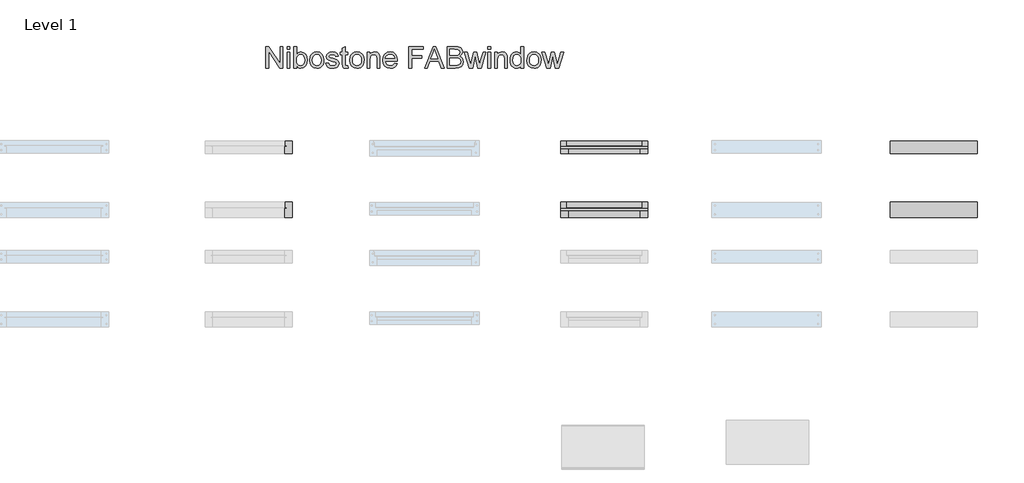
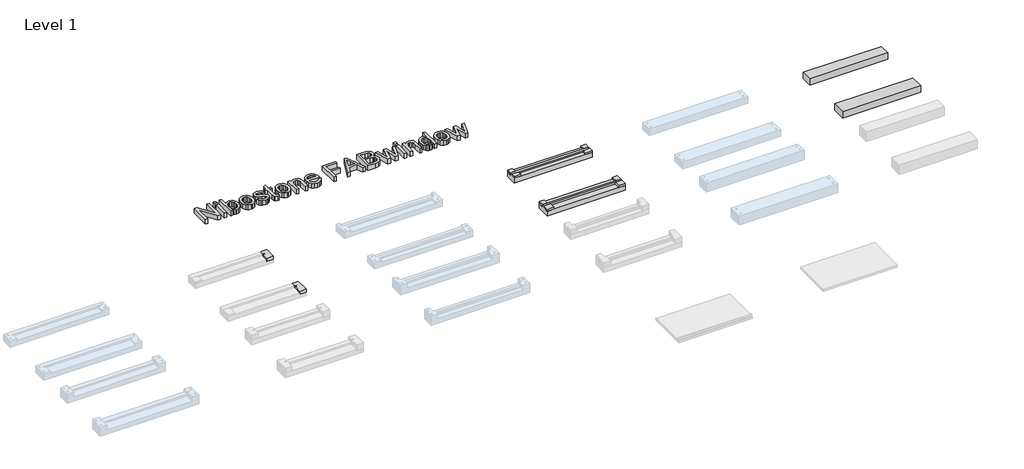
# One storey, part 4 of 4: 11 proxies.
"""IFC4 building model written with IfcOpenShell, lengths in millimetres."""

from ifc_helpers import new_model, si_unit, frame, origin, origin_with_axes, place, context, project, spatial, polyline, outline, extrude, faceted_brep, element, save

model = new_model("IFC4")

# Units and contexts
model_context = context("Model", 3, world=origin())
ifc_project = project(units=[si_unit("LENGTHUNIT", "METRE", prefix="MILLI")], contexts=[model_context])

# Site, building, storey
site = spatial("IfcSite", under=ifc_project)
building = spatial("IfcBuilding", under=site)
storey = spatial("IfcBuildingStorey", under=building, Name="Level 1", Elevation=0.0)

# Proxies
placement = place(None, origin())
element("IfcBuildingElementProxy", 1, Name="200 mm", ObjectType="200 mm", at=placement, inside=storey, context=model_context, shape_type="SweptSolid", body=[
    extrude(outline(polyline([(13803.9519218, 17664.2498472), (13803.9519218, 17861.1729242), (13830.2980756, 17861.1729242), (13933.182691, 17705.1633088), (13933.182691, 17861.1729242), (13957.7980756, 17861.1729242), (13957.7980756, 17664.2498472), (13931.4519218, 17664.2498472), (13828.5673064, 17820.3075395), (13828.5673064, 17664.2498472), (13803.9519218, 17664.2498472)])), origin_with_axes(), (0.0, 0.0, 1.0), 50.0),
    extrude(outline(polyline([(13997.7980756, 17664.2498472), (13997.7980756, 17808.8652319), (14022.4134603, 17808.8652319), (14022.4134603, 17664.2498472), (13997.7980756, 17664.2498472)])), origin_with_axes(), (0.0, 0.0, 1.0), 50.0),
    extrude(outline(polyline([(13997.7980756, 17836.5575395), (13997.7980756, 17861.1729242), (14022.4134603, 17861.1729242), (14022.4134603, 17836.5575395), (13997.7980756, 17836.5575395)])), origin_with_axes(), (0.0, 0.0, 1.0), 50.0),
    extrude(outline(polyline([(14083.9519218, 17664.2498472), (14059.3365372, 17664.2498472), (14059.3365372, 17861.1729242), (14083.9519218, 17861.1729242), (14083.9519218, 17788.144078), (14101.1874987, 17805.9926357), (14122.605768, 17811.9421549), (14147.2692295, 17806.581578), (14166.4038449, 17791.5094626), (14178.1586526, 17768.0719626), (14182.4134603, 17738.7210011), (14178.0084122, 17705.8604242), (14164.793268, 17681.4133088), (14145.4002391, 17666.2330203), (14122.4615372, 17661.1729242), (14110.8599747, 17662.8045347), (14100.574518, 17667.6993665), (14083.9519218, 17687.2786934), (14083.9519218, 17664.2498472)]), holes=[polyline([(14083.9519218, 17737.5671549), (14085.6346141, 17717.0383088), (14090.682691, 17703.144078), (14103.5793256, 17690.1272511), (14120.3461526, 17685.7883088), (14134.5528833, 17688.9854242), (14146.6923064, 17698.5767703), (14155.0216333, 17714.5022511), (14157.7980756, 17736.7017703), (14155.135816, 17759.2258088), (14147.1490372, 17774.9710011), (14135.3882199, 17784.237828), (14121.4038449, 17787.3267703), (14107.1971141, 17784.1296549), (14095.057691, 17774.5383088), (14086.7283641, 17758.9012895), (14083.9519218, 17737.5671549)])]), origin_with_axes(), (0.0, 0.0, 1.0), 50.0),
    extrude(outline(polyline([(14203.9519218, 17736.5575395), (14209.276441, 17771.425328), (14215.9320901, 17784.9740059), (14225.2499987, 17795.9325395), (14244.9855756, 17807.9397511), (14268.6153833, 17811.9421549), (14294.4747583, 17807.0683569), (14315.1298064, 17792.4469626), (14328.6694699, 17769.2318184), (14333.182691, 17738.5767703), (14331.1874987, 17713.7089819), (14325.2019218, 17694.7786934), (14315.4002391, 17680.6020107), (14301.9567295, 17669.9950395), (14285.9891814, 17663.378453), (14268.6153833, 17661.1729242), (14242.4435083, 17666.0286934), (14221.8124987, 17680.5960011), (14208.417066, 17704.2979242), (14203.9519218, 17736.5575395)]), holes=[polyline([(14228.5673064, 17736.6056165), (14231.4158641, 17714.3279722), (14239.9615372, 17698.456578), (14252.8221141, 17688.9553761), (14268.6153833, 17685.7883088), (14284.3365372, 17688.9734049), (14297.1730756, 17698.5286934), (14305.7187487, 17714.6104242), (14308.5673064, 17737.3748472), (14305.7007199, 17759.003453), (14297.1009603, 17774.6585011), (14284.246393, 17784.159703), (14268.6153833, 17787.3267703), (14252.8221141, 17784.1717222), (14239.9615372, 17774.706578), (14231.4158641, 17758.8712415), (14228.5673064, 17736.6056165)])]), origin_with_axes(), (0.0, 0.0, 1.0), 50.0),
    extrude(outline(polyline([(14351.6442295, 17707.3267703), (14376.2596141, 17710.4036934), (14380.1418256, 17699.8748472), (14387.6538449, 17692.1344626), (14398.8437487, 17687.3748472), (14413.7596141, 17685.7883088), (14428.495191, 17687.2426357), (14438.855768, 17691.6056165), (14444.9855756, 17697.9277319), (14447.0288449, 17705.2594626), (14444.9735564, 17711.5335011), (14438.807691, 17716.3171549), (14413.4711526, 17723.3363857), (14376.4038449, 17735.3796549), (14360.2259603, 17749.4421549), (14354.7211526, 17769.2979242), (14359.1442295, 17787.6392703), (14371.2115372, 17801.6536934), (14386.8605756, 17808.9373472), (14408.0384603, 17811.9421549), (14437.9903833, 17807.1104242), (14449.1923064, 17801.425328), (14457.0288449, 17794.0335011), (14465.4903833, 17771.9421549), (14440.8749987, 17768.8652319), (14437.7680276, 17776.6116261), (14431.620191, 17782.4469626), (14409.9615372, 17787.3267703), (14395.8269218, 17786.1609049), (14386.4038449, 17782.6633088), (14381.1033641, 17777.6152319), (14379.3365372, 17771.7979242), (14382.2692295, 17764.6344626), (14391.4519218, 17759.2017703), (14412.6538449, 17753.9613857), (14448.7836526, 17742.3748472), (14465.5624987, 17729.2498472), (14470.1237968, 17719.5984049), (14471.6442295, 17707.8556165), (14469.8593737, 17695.7161934), (14464.5048064, 17684.2979242), (14455.7848545, 17674.4962415), (14443.9038449, 17667.206578), (14429.5528833, 17662.6813376), (14413.4230756, 17661.1729242), (14388.6033641, 17664.081578), (14370.4903833, 17672.8075395), (14358.3990372, 17687.2546549), (14351.6442295, 17707.3267703)])), origin_with_axes(), (0.0, 0.0, 1.0), 50.0),
    extrude(outline(polyline([(14551.6442295, 17684.7786934), (14554.7211526, 17663.5286934), (14536.307691, 17661.1729242), (14515.682691, 17665.2594626), (14505.3942295, 17675.9806165), (14502.4134603, 17703.9133088), (14502.4134603, 17784.2498472), (14483.9519218, 17784.2498472), (14483.9519218, 17808.8652319), (14502.4134603, 17808.8652319), (14502.4134603, 17844.0094626), (14527.0288449, 17858.4806165), (14527.0288449, 17808.8652319), (14551.6442295, 17808.8652319), (14551.6442295, 17784.2498472), (14527.0288449, 17784.2498472), (14527.0288449, 17704.6344626), (14528.3269218, 17691.9421549), (14532.5336526, 17687.4469626), (14540.9230756, 17685.7883088), (14551.6442295, 17684.7786934)])), origin_with_axes(), (0.0, 0.0, 1.0), 50.0),
    extrude(outline(polyline([(14570.105768, 17736.5575395), (14575.4302872, 17771.425328), (14582.0859362, 17784.9740059), (14591.4038449, 17795.9325395), (14611.1394218, 17807.9397511), (14634.7692295, 17811.9421549), (14660.6286045, 17807.0683569), (14681.2836526, 17792.4469626), (14694.823316, 17769.2318184), (14699.3365372, 17738.5767703), (14697.3413449, 17713.7089819), (14691.355768, 17694.7786934), (14681.5540853, 17680.6020107), (14668.1105756, 17669.9950395), (14652.1430276, 17663.378453), (14634.7692295, 17661.1729242), (14608.5973545, 17666.0286934), (14587.9663449, 17680.5960011), (14574.5709122, 17704.2979242), (14570.105768, 17736.5575395)]), holes=[polyline([(14594.7211526, 17736.6056165), (14597.5697103, 17714.3279722), (14606.1153833, 17698.456578), (14618.9759603, 17688.9553761), (14634.7692295, 17685.7883088), (14650.4903833, 17688.9734049), (14663.3269218, 17698.5286934), (14671.8725949, 17714.6104242), (14674.7211526, 17737.3748472), (14671.854566, 17759.003453), (14663.2548064, 17774.6585011), (14650.4002391, 17784.159703), (14634.7692295, 17787.3267703), (14618.9759603, 17784.1717222), (14606.1153833, 17774.706578), (14597.5697103, 17758.8712415), (14594.7211526, 17736.6056165)])]), origin_with_axes(), (0.0, 0.0, 1.0), 50.0),
    extrude(outline(polyline([(14727.0288449, 17664.2498472), (14727.0288449, 17808.8652319), (14751.6442295, 17808.8652319), (14751.6442295, 17788.6729242), (14760.1959122, 17798.8532126), (14770.4663449, 17806.1248472), (14782.4555276, 17810.487828), (14796.1634603, 17811.9421549), (14819.4086526, 17807.2546549), (14835.2740372, 17794.9469626), (14842.6538449, 17776.8460011), (14843.9519218, 17753.0479242), (14843.9519218, 17664.2498472), (14819.3365372, 17664.2498472), (14819.3365372, 17749.7306165), (14816.4999987, 17771.5094626), (14806.4759603, 17783.0238857), (14789.5769218, 17787.3267703), (14775.1598545, 17784.9109049), (14762.870191, 17777.6633088), (14754.4507199, 17763.6609049), (14751.6442295, 17740.9806165), (14751.6442295, 17664.2498472), (14727.0288449, 17664.2498472)])), origin_with_axes(), (0.0, 0.0, 1.0), 50.0),
    extrude(outline(polyline([(14979.0480756, 17707.3267703), (15003.182691, 17704.2498472), (14994.4867776, 17686.0647511), (14980.6105756, 17672.4710011), (14961.8665853, 17663.9974434), (14938.5673064, 17661.1729242), (14909.6850949, 17666.0467222), (14887.4615372, 17680.6681165), (14873.2908641, 17704.0875876), (14868.5673064, 17735.3556165), (14873.338941, 17767.675328), (14887.6538449, 17791.8460011), (14909.5769218, 17806.9181165), (14937.1730756, 17811.9421549), (14963.9098545, 17806.9301357), (14985.2740372, 17791.894078), (14999.2824506, 17767.7714819), (15003.9519218, 17735.4998472), (15003.807691, 17728.8652319), (14893.182691, 17728.8652319), (14897.4435083, 17710.4397511), (14907.3413449, 17696.894078), (14921.6262006, 17688.5647511), (14939.0480756, 17685.7883088), (14963.182691, 17690.9325395), (14972.1490372, 17697.6032126), (14979.0480756, 17707.3267703)]), holes=[polyline([(14893.182691, 17753.4806165), (14979.3365372, 17753.4806165), (14976.0072103, 17766.4854242), (14969.480768, 17775.7883088), (14955.1298064, 17784.4421549), (14937.0769218, 17787.3267703), (14920.4843737, 17785.0250876), (14906.7644218, 17778.1200395), (14897.2271622, 17767.3568184), (14893.182691, 17753.4806165)])]), origin_with_axes(), (0.0, 0.0, 1.0), 50.0),
    extrude(outline(polyline([(15108.5673064, 17664.2498472), (15108.5673064, 17861.1729242), (15240.8749987, 17861.1729242), (15240.8749987, 17836.5575395), (15133.182691, 17836.5575395), (15133.182691, 17778.0960011), (15225.4903833, 17778.0960011), (15225.4903833, 17753.4806165), (15133.182691, 17753.4806165), (15133.182691, 17664.2498472), (15108.5673064, 17664.2498472)])), origin_with_axes(), (0.0, 0.0, 1.0), 50.0),
    extrude(outline(polyline([(15251.7884603, 17664.2498472), (15330.3942295, 17861.1729242), (15351.355768, 17861.1729242), (15429.9615372, 17664.2498472), (15403.9519218, 17664.2498472), (15381.4038449, 17725.7883088), (15300.2980756, 17725.7883088), (15277.7980756, 17664.2498472), (15251.7884603, 17664.2498472)]), holes=[polyline([(15309.3365372, 17750.4036934), (15372.4134603, 17750.4036934), (15354.6730756, 17798.8171549), (15340.8749987, 17836.5575395), (15328.6153833, 17803.0479242), (15309.3365372, 17750.4036934)])]), origin_with_axes(), (0.0, 0.0, 1.0), 50.0),
    extrude(outline(polyline([(15456.2596141, 17664.2498472), (15456.2596141, 17861.1729242), (15531.4038449, 17861.1729242), (15552.0709122, 17859.7246069), (15568.2067295, 17855.3796549), (15580.574518, 17848.0298953), (15589.9374987, 17837.5671549), (15595.8329314, 17825.2594626), (15597.7980756, 17812.3748472), (15596.1454314, 17800.5178761), (15591.1874987, 17789.3700395), (15582.8882199, 17779.6164338), (15571.2115372, 17771.9421549), (15585.1598545, 17764.6585011), (15595.4663449, 17753.5767703), (15601.8305276, 17739.4301357), (15603.9519218, 17722.9517703), (15598.1586526, 17696.4854242), (15583.807691, 17677.6392703), (15562.3894218, 17667.6392703), (15530.8269218, 17664.2498472), (15456.2596141, 17664.2498472)]), holes=[polyline([(15480.8749987, 17781.1729242), (15525.8269218, 17781.1729242), (15552.0769218, 17783.2883088), (15567.870191, 17792.3988857), (15573.182691, 17808.4325395), (15568.230768, 17824.4902319), (15554.0480756, 17833.9854242), (15522.4134603, 17836.5575395), (15480.8749987, 17836.5575395), (15480.8749987, 17781.1729242)]), polyline([(15480.8749987, 17688.8652319), (15531.355768, 17688.8652319), (15549.6249987, 17689.8267703), (15565.0817295, 17695.1873472), (15575.3221141, 17706.1248472), (15579.3365372, 17722.7113857), (15574.6249987, 17741.8460011), (15568.4531237, 17748.7630684), (15559.3605756, 17753.2642703), (15528.9519218, 17756.5575395), (15480.8749987, 17756.5575395), (15480.8749987, 17688.8652319)])]), origin_with_axes(), (0.0, 0.0, 1.0), 50.0),
    extrude(outline(polyline([(15658.7115372, 17664.2498472), (15614.7211526, 17808.8652319), (15640.2980756, 17808.8652319), (15665.2499987, 17724.4902319), (15672.7019218, 17694.3460011), (15678.807691, 17723.3844626), (15698.6634603, 17808.8652319), (15727.9903833, 17808.8652319), (15747.7499987, 17723.6248472), (15753.182691, 17697.3267703), (15760.9711526, 17725.0671549), (15785.9711526, 17808.8652319), (15811.6442295, 17808.8652319), (15767.3173064, 17664.2498472), (15737.557691, 17664.2498472), (15718.6634603, 17749.0575395), (15713.182691, 17775.4998472), (15688.807691, 17664.2498472), (15658.7115372, 17664.2498472)])), origin_with_axes(), (0.0, 0.0, 1.0), 50.0),
    extrude(outline(polyline([(15828.5673064, 17664.2498472), (15828.5673064, 17808.8652319), (15853.182691, 17808.8652319), (15853.182691, 17664.2498472), (15828.5673064, 17664.2498472)])), origin_with_axes(), (0.0, 0.0, 1.0), 50.0),
    extrude(outline(polyline([(15828.5673064, 17836.5575395), (15828.5673064, 17861.1729242), (15853.182691, 17861.1729242), (15853.182691, 17836.5575395), (15828.5673064, 17836.5575395)])), origin_with_axes(), (0.0, 0.0, 1.0), 50.0),
    extrude(outline(polyline([(15890.105768, 17664.2498472), (15890.105768, 17808.8652319), (15914.7211526, 17808.8652319), (15914.7211526, 17788.6729242), (15923.2728353, 17798.8532126), (15933.543268, 17806.1248472), (15945.5324506, 17810.487828), (15959.2403833, 17811.9421549), (15982.4855756, 17807.2546549), (15998.3509603, 17794.9469626), (16005.730768, 17776.8460011), (16007.0288449, 17753.0479242), (16007.0288449, 17664.2498472), (15982.4134603, 17664.2498472), (15982.4134603, 17749.7306165), (15979.5769218, 17771.5094626), (15969.5528833, 17783.0238857), (15952.6538449, 17787.3267703), (15938.2367776, 17784.9109049), (15925.9471141, 17777.6633088), (15917.527643, 17763.6609049), (15914.7211526, 17740.9806165), (15914.7211526, 17664.2498472), (15890.105768, 17664.2498472)])), origin_with_axes(), (0.0, 0.0, 1.0), 50.0),
    extrude(outline(polyline([(16130.105768, 17664.2498472), (16130.105768, 17687.4710011), (16122.7409843, 17675.9655924), (16113.8197103, 17667.7474434), (16103.3419458, 17662.816554), (16091.307691, 17661.1729242), (16075.3942295, 17663.5527319), (16060.8269218, 17670.6921549), (16048.495191, 17682.0923953), (16039.2884603, 17697.2546549), (16033.5552872, 17715.565953), (16031.6442295, 17736.4133088), (16033.4050468, 17757.0022511), (16038.6874987, 17775.5960011), (16047.4855756, 17791.1368665), (16059.793268, 17802.5671549), (16074.6790853, 17809.5984049), (16091.2115372, 17811.9421549), (16103.2548064, 17810.2654722), (16113.9038449, 17805.2354242), (16130.105768, 17787.8075395), (16130.105768, 17861.1729242), (16154.7211526, 17861.1729242), (16154.7211526, 17664.2498472), (16130.105768, 17664.2498472)]), holes=[polyline([(16056.2596141, 17736.5094626), (16059.0360564, 17714.2438376), (16067.3653833, 17698.4085011), (16079.4687487, 17688.9433569), (16093.5673064, 17685.7883088), (16107.6598545, 17688.7991261), (16119.4567295, 17697.831578), (16127.4435083, 17713.0539338), (16130.105768, 17734.6344626), (16127.3954314, 17758.2282126), (16119.2644218, 17774.5863857), (16107.167066, 17784.1416742), (16092.557691, 17787.3267703), (16078.3149026, 17784.2678761), (16066.6442295, 17775.0911934), (16058.855768, 17759.3279722), (16056.2596141, 17736.5094626)])]), origin_with_axes(), (0.0, 0.0, 1.0), 50.0),
    extrude(outline(polyline([(16185.4903833, 17736.5575395), (16190.8149026, 17771.425328), (16197.4705516, 17784.9740059), (16206.7884603, 17795.9325395), (16226.5240372, 17807.9397511), (16250.1538449, 17811.9421549), (16276.0132199, 17807.0683569), (16296.668268, 17792.4469626), (16310.2079314, 17769.2318184), (16314.7211526, 17738.5767703), (16312.7259603, 17713.7089819), (16306.7403833, 17694.7786934), (16296.9387006, 17680.6020107), (16283.495191, 17669.9950395), (16267.527643, 17663.378453), (16250.1538449, 17661.1729242), (16223.9819699, 17666.0286934), (16203.3509603, 17680.5960011), (16189.9555276, 17704.2979242), (16185.4903833, 17736.5575395)]), holes=[polyline([(16210.105768, 17736.6056165), (16212.9543256, 17714.3279722), (16221.4999987, 17698.456578), (16234.3605756, 17688.9553761), (16250.1538449, 17685.7883088), (16265.8749987, 17688.9734049), (16278.7115372, 17698.5286934), (16287.2572103, 17714.6104242), (16290.105768, 17737.3748472), (16287.2391814, 17759.003453), (16278.6394218, 17774.6585011), (16265.7848545, 17784.159703), (16250.1538449, 17787.3267703), (16234.3605756, 17784.1717222), (16221.4999987, 17774.706578), (16212.9543256, 17758.8712415), (16210.105768, 17736.6056165)])]), origin_with_axes(), (0.0, 0.0, 1.0), 50.0),
    extrude(outline(polyline([(16366.4038449, 17664.2498472), (16322.4134603, 17808.8652319), (16347.9903833, 17808.8652319), (16372.9423064, 17724.4902319), (16380.3942295, 17694.3460011), (16386.4999987, 17723.3844626), (16406.355768, 17808.8652319), (16435.682691, 17808.8652319), (16455.4423064, 17723.6248472), (16460.8749987, 17697.3267703), (16468.6634603, 17725.0671549), (16493.6634603, 17808.8652319), (16519.3365372, 17808.8652319), (16475.0096141, 17664.2498472), (16445.2499987, 17664.2498472), (16426.355768, 17749.0575395), (16420.8749987, 17775.4998472), (16396.4999987, 17664.2498472), (16366.4038449, 17664.2498472)])), origin_with_axes(), (0.0, 0.0, 1.0), 50.0),
])
element("IfcBuildingElementProxy", 2, Name="Nibostone : BLOK-114-70", ObjectType="Nibostone : BLOK-114-70", at=placement, inside=storey, context=model_context, shape_type="SweptSolid", body=[
    extrude(outline(polyline([(19500.0, 16885.5777074), (19500.0, 16999.5777074), (20293.7366492, 16999.5777074), (20293.7366492, 16885.5777074), (19500.0, 16885.5777074)])), frame((0.0, 0.0, -26.0), z_axis=(0.0, 0.0, 1.0), x_axis=(1.0, 0.0, 0.0)), (0.0, 0.0, 1.0), 70.0),
])
element("IfcBuildingElementProxy", 3, Name="Nibostone : BLOK-139-70", ObjectType="Nibostone : BLOK-139-70", at=placement, inside=storey, context=model_context, shape_type="SweptSolid", body=[
    extrude(outline(polyline([(19500.0, 16301.0), (19500.0, 16440.0), (20293.7366492, 16440.0), (20293.7366492, 16301.0), (19500.0, 16301.0)])), frame((0.0, 0.0, -26.0), z_axis=(0.0, 0.0, 1.0), x_axis=(1.0, 0.0, 0.0)), (0.0, 0.0, 1.0), 70.0),
])
element("IfcBuildingElementProxy", 4, Name="Nibostone : DA-51-114", ObjectType="Nibostone : DA-51-114", at=placement, inside=storey, context=model_context, shape_type="Brep", body=[
    faceted_brep([(16493.7645592, 16999.5777074, -26.0), (16493.7645592, 16999.5777074, 26.5633906), (17287.5012085, 16999.5777074, 26.5633906), (17287.5012085, 16999.5777074, -26.0), (16493.7645592, 16958.5777074, 26.5633906), (16543.7645592, 16958.5777074, 26.5633906), (17237.5012085, 16958.5777074, 26.5633906), (17287.5012085, 16958.5777074, 26.5633906), (16493.7645592, 16928.5777074, 26.3887468), (16493.7645592, 16885.5777074, 24.5113263), (16560.7645592, 16885.5777074, 24.5113263), (17220.5012085, 16885.5777074, 24.5113263), (17287.5012085, 16885.5777074, 24.5113263), (17287.5012085, 16928.5777074, 26.3887468), (17220.5012085, 16928.5777074, 26.3887468), (16560.7645592, 16928.5777074, 26.3887468), (16493.7645592, 16885.5777074, -26.0), (17287.5012085, 16885.5777074, -26.0), (17287.5012085, 16958.5777074, 21.5633906), (17287.5012085, 16948.5777074, 21.5633906), (17287.5012085, 16948.5777074, 44.0), (17287.5012085, 16928.5777074, 44.0), (16493.7645592, 16928.5777074, 44.0), (16493.7645592, 16948.5777074, 44.0), (16493.7645592, 16948.5777074, 21.5633906), (16493.7645592, 16958.5777074, 21.5633906), (16543.7645592, 16958.5777074, 21.5633906), (17237.5012085, 16958.5777074, 21.5633906), (17220.5012085, 16928.5777074, 44.0), (16560.7645592, 16928.5777074, 44.0), (17237.5012085, 16948.5777074, 44.0), (16543.7645592, 16948.5777074, 44.0), (17237.5012085, 16948.5777074, 21.5633906), (16543.7645592, 16948.5777074, 21.5633906)], [[[0, 1, 2, 3]], [[1, 4, 5, 6, 7, 2]], [[8, 9, 10, 11, 12, 13, 14, 15]], [[16, 0, 3, 17]], [[3, 2, 7, 18, 19, 20, 21, 13, 12, 17]], [[9, 16, 17, 12, 11, 10]], [[0, 16, 9, 8, 22, 23, 24, 25, 4, 1]], [[4, 25, 26, 27, 18, 7, 6, 5]], [[22, 8, 15, 14, 13, 21, 28, 29]], [[23, 22, 29, 28, 21, 20, 30, 31]], [[24, 23, 31, 30, 20, 19, 32, 33]], [[25, 24, 33, 32, 19, 18, 27, 26]]]),
])
element("IfcBuildingElementProxy", 5, Name="Nibostone : DA-57-139", ObjectType="Nibostone : DA-57-139", at=placement, inside=storey, context=model_context, shape_type="Brep", body=[
    faceted_brep([(16493.7645592, 16440.0, -26.0), (16493.7645592, 16440.0, 26.5633906), (17287.5012085, 16440.0, 26.5633906), (17287.5012085, 16440.0, -26.0), (16493.7645592, 16393.0, 26.5633906), (16543.7645592, 16393.0, 26.5633906), (17237.5012085, 16393.0, 26.5633906), (17287.5012085, 16393.0, 26.5633906), (16493.7645592, 16363.0, 26.1267811), (16493.7645592, 16301.0, 23.4198027), (16560.7645592, 16301.0, 23.4198027), (17220.5012085, 16301.0, 23.4198027), (17287.5012085, 16301.0, 23.4198027), (17287.5012085, 16363.0, 26.1267811), (17220.5012085, 16363.0, 26.1267811), (16560.7645592, 16363.0, 26.1267811), (16493.7645592, 16301.0, -26.0), (17287.5012085, 16301.0, -26.0), (17287.5012085, 16393.0, 21.5633906), (17287.5012085, 16383.0, 21.5633906), (17287.5012085, 16383.0, 44.0), (17287.5012085, 16363.0, 44.0), (16493.7645592, 16363.0, 44.0), (16493.7645592, 16383.0, 44.0), (16493.7645592, 16383.0, 21.5633906), (16493.7645592, 16393.0, 21.5633906), (16543.7645592, 16393.0, 21.5633906), (17237.5012085, 16393.0, 21.5633906), (17220.5012085, 16363.0, 44.0), (16560.7645592, 16363.0, 44.0), (17237.5012085, 16383.0, 44.0), (16543.7645592, 16383.0, 44.0), (17237.5012085, 16383.0, 21.5633906), (16543.7645592, 16383.0, 21.5633906)], [[[0, 1, 2, 3]], [[1, 4, 5, 6, 7, 2]], [[8, 9, 10, 11, 12, 13, 14, 15]], [[16, 0, 3, 17]], [[3, 2, 7, 18, 19, 20, 21, 13, 12, 17]], [[9, 16, 17, 12, 11, 10]], [[0, 16, 9, 8, 22, 23, 24, 25, 4, 1]], [[4, 25, 26, 27, 18, 7, 6, 5]], [[22, 8, 15, 14, 13, 21, 28, 29]], [[23, 22, 29, 28, 21, 20, 30, 31]], [[24, 23, 31, 30, 20, 19, 32, 33]], [[25, 24, 33, 32, 19, 18, 27, 26]]]),
])
element("IfcBuildingElementProxy", 6, Name="BI-NEUT-51-114 : std", ObjectType="BI-NEUT-51-114 : std", at=placement, inside=storey, context=model_context, shape_type="Brep", body=[
    faceted_brep([(14043.7366492, 16964.4229826, 8.9806081), (14043.7366492, 16885.5777074, 8.9806081), (13976.7366492, 16885.5777074, 8.9806081), (13976.7366492, 16948.5777074, 8.9806081), (13993.7366492, 16948.5777074, 8.9806081), (13993.7366492, 16958.5777074, 8.9806081), (13976.7366492, 16958.5777074, 8.9806081), (13976.7366492, 16964.5777074, 8.9806081), (13993.7366492, 16948.5777074, 44.0), (13993.7366492, 16948.5777074, 27.2619657), (13976.7366492, 16948.5777074, 27.2619657), (13976.7366492, 16948.5777074, 44.0), (13993.7366492, 16958.5777074, 27.6985751), (13993.7366492, 16958.5777074, 44.0), (13976.7366492, 16958.5777074, 44.0), (13976.7366492, 16958.5777074, 27.6985751), (13976.7366492, 16999.5742907, 8.9806081), (14043.7366492, 16999.5742907, 8.9806081), (13976.7366492, 16999.5742907, 44.0), (14043.7366492, 16999.5742907, 44.0), (13976.7366492, 16885.5777074, 44.0), (14043.7366492, 16885.5777074, 44.0), (13976.7366492, 16885.5777074, 24.5113263)], [[[0, 1, 2, 3, 4, 5, 6, 7]], [[8, 9, 4, 3, 10, 11]], [[5, 12, 13, 14, 15, 6]], [[0, 7, 16, 17]], [[17, 16, 18, 19]], [[19, 18, 14, 13, 8, 11, 20, 21]], [[2, 1, 21, 20, 22]], [[2, 22, 20, 11, 10, 3]], [[16, 7, 6, 15, 14, 18]], [[1, 0, 17, 19, 21]], [[4, 9, 8, 13, 12, 5]]]),
])
element("IfcBuildingElementProxy", 7, Name="BI-NEUT-57-139 : std", ObjectType="BI-NEUT-57-139 : std", at=placement, inside=storey, context=model_context, shape_type="Brep", body=[
    faceted_brep([(14043.7366492, 16404.8452752, 8.9806081), (14043.7366492, 16301.0, 8.9806081), (13976.7366492, 16301.0, 8.9806081), (13976.7366492, 16383.0, 8.9806081), (13993.7366492, 16383.0, 8.9806081), (13993.7366492, 16393.0, 8.9806081), (13976.7366492, 16393.0, 8.9806081), (13976.7366492, 16405.0, 8.9806081), (13993.7366492, 16383.0, 44.0), (13993.7366492, 16383.0, 27.0), (13976.7366492, 16383.0, 27.0), (13976.7366492, 16383.0, 44.0), (13993.7366492, 16393.0, 27.4366094), (13993.7366492, 16393.0, 44.0), (13976.7366492, 16393.0, 44.0), (13976.7366492, 16393.0, 27.4366094), (13976.7366492, 16439.9965833, 8.9806081), (14043.7366492, 16439.9965833, 8.9806081), (13976.7366492, 16439.9965833, 44.0), (14043.7366492, 16439.9965833, 44.0), (13976.7366492, 16301.0, 44.0), (14043.7366492, 16301.0, 44.0), (13976.7366492, 16301.0, 23.4198027)], [[[0, 1, 2, 3, 4, 5, 6, 7]], [[8, 9, 4, 3, 10, 11]], [[5, 12, 13, 14, 15, 6]], [[0, 7, 16, 17]], [[17, 16, 18, 19]], [[19, 18, 14, 13, 8, 11, 20, 21]], [[2, 1, 21, 20, 22]], [[4, 9, 8, 13, 12, 5]], [[16, 7, 6, 15, 14, 18]], [[2, 22, 20, 11, 10, 3]], [[1, 0, 17, 19, 21]]]),
])
element("IfcBuildingElementProxy", 8, Name="DA-NEUT-51-114 : std", ObjectType="DA-NEUT-51-114 : std", at=placement, inside=storey, context=model_context, shape_type="Brep", body=[
    faceted_brep([(17237.5012085, 16999.5742907, 44.0), (17287.5012085, 16999.5742907, 44.0), (17287.5012085, 16999.5742907, 26.5633906), (17237.5012085, 16999.5742907, 26.5633906), (17237.5012085, 16948.5742907, 44.0), (17237.5012085, 16958.5777074, 26.5633906), (17237.5012085, 16958.5777074, 21.5633906), (17237.5012085, 16948.5742907, 21.5633906), (17287.5012085, 16958.5777074, 26.5633906), (17287.5012085, 16958.5777074, 21.5633906), (17287.5012085, 16948.5777074, 21.5633906), (17287.5012085, 16948.5777074, 44.0)], [[[0, 1, 2, 3]], [[4, 0, 3, 5, 6, 7]], [[8, 5, 3, 2]], [[5, 8, 9, 6]], [[7, 10, 11, 4]], [[10, 7, 6, 9]], [[1, 0, 4, 11]], [[2, 1, 11, 10, 9, 8]]]),
    faceted_brep([(17220.5012085, 16885.5777074, 44.0), (17287.5012085, 16885.5777074, 44.0), (17287.5012085, 16928.5777074, 44.0), (17220.5012085, 16928.5777074, 44.0), (17220.5012085, 16885.5777074, 24.5113263), (17287.5012085, 16885.5777074, 24.5113263), (17220.5012085, 16928.5777074, 26.3887468), (17287.5012085, 16928.5777074, 26.3887468)], [[[0, 1, 2, 3]], [[1, 0, 4, 5]], [[0, 3, 6, 4]], [[2, 1, 5, 7]], [[6, 7, 5, 4]], [[7, 6, 3, 2]]]),
])
element("IfcBuildingElementProxy", 9, Name="DA-NEUT-51-114 : std", ObjectType="DA-NEUT-51-114 : std", at=placement, inside=storey, context=model_context, shape_type="SweptSolid", body=[
    extrude(outline(polyline([(16999.5742907, 44.0), (16999.5742907, 26.5633906), (16958.5777074, 26.5633906), (16958.5777074, 21.5633906), (16948.5777074, 21.5633906), (16948.5777074, 44.0), (16999.5742907, 44.0)])), frame((16493.7645592, 0.0, 0.0), z_axis=(1.0, 0.0, 0.0), x_axis=(0.0, 1.0, 0.0)), (0.0, 0.0, 1.0), 50.0),
    extrude(outline(polyline([(16885.5777074, 44.0), (16928.5777074, 44.0), (16928.5777074, 26.3887468), (16885.5777074, 24.5113263), (16885.5777074, 44.0)])), frame((16493.7645592, 0.0, 0.0), z_axis=(1.0, 0.0, 0.0), x_axis=(0.0, 1.0, 0.0)), (0.0, 0.0, 1.0), 67.0),
])
element("IfcBuildingElementProxy", 10, Name="DA-NEUT-57-139 : std", ObjectType="DA-NEUT-57-139 : std", at=placement, inside=storey, context=model_context, shape_type="Brep", body=[
    faceted_brep([(17237.5012085, 16439.9965833, 44.0), (17287.5012085, 16439.9965833, 44.0), (17287.5012085, 16439.9965833, 26.5633906), (17237.5012085, 16439.9965833, 26.5633906), (17237.5012085, 16382.9987818, 44.0), (17237.5012085, 16393.0, 26.5633906), (17237.5012085, 16393.0, 21.5633906), (17237.5012085, 16382.9995623, 21.5633906), (17287.5012085, 16393.0, 26.5633906), (17287.5012085, 16393.0, 21.5633906), (17287.5012085, 16383.0, 21.5633906), (17287.5012085, 16383.0, 44.0)], [[[0, 1, 2, 3]], [[4, 0, 3, 5, 6, 7]], [[8, 5, 3, 2]], [[5, 8, 9, 6]], [[7, 10, 11, 4]], [[10, 7, 6, 9]], [[1, 0, 4, 11]], [[2, 1, 11, 10, 9, 8]]]),
    faceted_brep([(17287.5012085, 16301.0, 44.0), (17220.5012085, 16301.0, 44.0), (17220.5012085, 16301.0, 23.4198027), (17287.5012085, 16301.0, 23.4198027), (17287.5012085, 16363.0, 44.0), (17220.5012085, 16363.0, 44.0), (17220.5012085, 16363.0, 26.1267811), (17287.5012085, 16363.0, 26.1267811)], [[[0, 1, 2, 3]], [[1, 0, 4, 5]], [[2, 1, 5, 6]], [[0, 3, 7, 4]], [[6, 7, 3, 2]], [[7, 6, 5, 4]]]),
])
element("IfcBuildingElementProxy", 11, Name="DA-NEUT-57-139 : std", ObjectType="DA-NEUT-57-139 : std", at=placement, inside=storey, context=model_context, shape_type="SweptSolid", body=[
    extrude(outline(polyline([(16439.9965833, 44.0), (16439.9965833, 26.5633906), (16393.0, 26.5633906), (16393.0, 21.5633906), (16383.0, 21.5633906), (16383.0, 44.0), (16439.9965833, 44.0)])), frame((16493.7645592, 0.0, 0.0), z_axis=(1.0, 0.0, 0.0), x_axis=(0.0, 1.0, 0.0)), (0.0, 0.0, 1.0), 50.0),
    extrude(outline(polyline([(16301.0, 23.4198027), (16301.0, 44.0), (16363.0, 44.0), (16363.0, 26.1267811), (16301.0, 23.4198027)])), frame((16493.7645592, 0.0, 0.0), z_axis=(1.0, 0.0, 0.0), x_axis=(0.0, 1.0, 0.0)), (0.0, 0.0, 1.0), 67.0),
])

save(model, "model.ifc")
